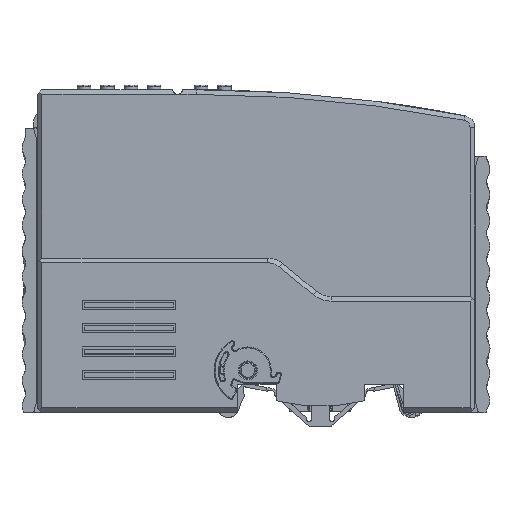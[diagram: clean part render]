
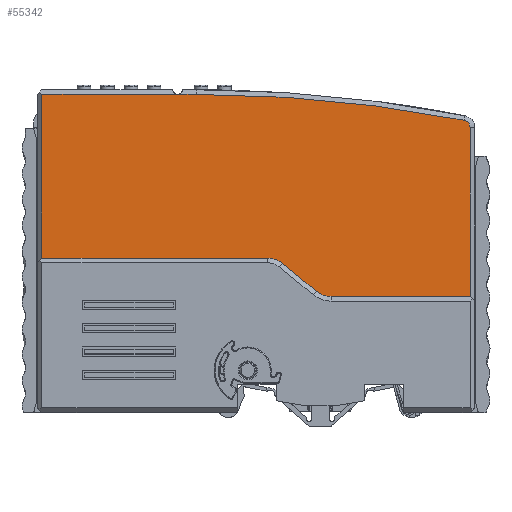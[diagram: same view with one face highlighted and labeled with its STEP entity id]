
A CAD part, top view. The second image highlights one B-rep face of the part: STEP entity #55342.
In plain terms, the highlighted planar face has unit normal (0, 0, 1).
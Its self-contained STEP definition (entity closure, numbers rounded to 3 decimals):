
#3159=DIRECTION('',(0.,-1.,0.));
#3160=VECTOR('',#3159,35.);
#3161=CARTESIAN_POINT('',(1.,68.,-20.));
#3162=LINE('',#3161,#3160);
#3163=CARTESIAN_POINT('',(34.,-231.,-20.));
#3164=DIRECTION('',(0.,0.,1.));
#3165=DIRECTION('',(0.191,0.982,0.));
#3166=AXIS2_PLACEMENT_3D('',#3163,#3164,#3165);
#3168=CARTESIAN_POINT('',(90.9,60.906,-20.));
#3169=DIRECTION('',(0.,0.,1.));
#3170=DIRECTION('',(1.,0.,0.));
#3171=AXIS2_PLACEMENT_3D('',#3168,#3169,#3170);
#3173=CARTESIAN_POINT('',(62.788,29.8,-20.));
#3174=DIRECTION('',(0.,0.,1.));
#3175=DIRECTION('',(-0.634,-0.773,0.));
#3176=AXIS2_PLACEMENT_3D('',#3173,#3174,#3175);
#3178=DIRECTION('',(0.773,-0.634,0.));
#3179=VECTOR('',#3178,9.356);
#3180=CARTESIAN_POINT('',(52.383,31.866,-20.));
#3181=LINE('',#3180,#3179);
#3182=CARTESIAN_POINT('',(49.212,28.,-20.));
#3183=DIRECTION('',(0.,0.,-1.));
#3184=DIRECTION('',(0.,1.,0.));
#3185=AXIS2_PLACEMENT_3D('',#3182,#3183,#3184);
#3187=DIRECTION('',(-1.,0.,0.));
#3188=VECTOR('',#3187,16.9);
#3189=CARTESIAN_POINT('',(48.5,31.4,-20.));
#3190=LINE('',#3189,#3188);
#3191=DIRECTION('',(0.,1.,0.));
#3192=VECTOR('',#3191,1.6);
#3193=CARTESIAN_POINT('',(48.5,31.4,-20.));
#3194=LINE('',#3193,#3192);
#3207=DIRECTION('',(-1.,0.,0.));
#3208=VECTOR('',#3207,11.3);
#3209=CARTESIAN_POINT('',(12.3,33.,-20.));
#3210=LINE('',#3209,#3208);
#3211=DIRECTION('',(-1.,0.,0.));
#3212=VECTOR('',#3211,2.4);
#3213=CARTESIAN_POINT('',(31.6,33.,-20.));
#3214=LINE('',#3213,#3212);
#3219=DIRECTION('',(-1.,0.,0.));
#3220=VECTOR('',#3219,0.712);
#3221=CARTESIAN_POINT('',(49.212,33.,-20.));
#3222=LINE('',#3221,#3220);
#3227=DIRECTION('',(0.,1.,0.));
#3228=VECTOR('',#3227,1.6);
#3229=CARTESIAN_POINT('',(12.3,31.4,-20.));
#3230=LINE('',#3229,#3228);
#3235=DIRECTION('',(-1.,0.,0.));
#3236=VECTOR('',#3235,16.9);
#3237=CARTESIAN_POINT('',(29.2,31.4,-20.));
#3238=LINE('',#3237,#3236);
#3243=DIRECTION('',(0.,1.,0.));
#3244=VECTOR('',#3243,1.6);
#3245=CARTESIAN_POINT('',(29.2,31.4,-20.));
#3246=LINE('',#3245,#3244);
#3271=DIRECTION('',(0.,1.,0.));
#3272=VECTOR('',#3271,1.6);
#3273=CARTESIAN_POINT('',(31.6,31.4,-20.));
#3274=LINE('',#3273,#3272);
#3347=DIRECTION('',(-1.,0.,0.));
#3348=VECTOR('',#3347,1.5);
#3349=CARTESIAN_POINT('',(40.8,32.4,-20.));
#3350=LINE('',#3349,#3348);
#3399=DIRECTION('',(0.,1.,0.));
#3400=VECTOR('',#3399,0.1);
#3401=CARTESIAN_POINT('',(40.8,32.3,-20.));
#3402=LINE('',#3401,#3400);
#3415=DIRECTION('',(-1.,0.,0.));
#3416=VECTOR('',#3415,1.5);
#3417=CARTESIAN_POINT('',(40.8,32.3,-20.));
#3418=LINE('',#3417,#3416);
#3431=DIRECTION('',(0.,1.,0.));
#3432=VECTOR('',#3431,0.1);
#3433=CARTESIAN_POINT('',(39.3,32.3,-20.));
#3434=LINE('',#3433,#3432);
#3870=DIRECTION('',(-1.,0.,0.));
#3871=VECTOR('',#3870,29.712);
#3872=CARTESIAN_POINT('',(92.5,24.8,-20.));
#3873=LINE('',#3872,#3871);
#3926=DIRECTION('',(0.,-1.,0.));
#3927=VECTOR('',#3926,36.106);
#3928=CARTESIAN_POINT('',(92.5,60.906,-20.));
#3929=LINE('',#3928,#3927);
#4344=DIRECTION('',(1.,0.,0.));
#4345=VECTOR('',#4344,4.);
#4346=CARTESIAN_POINT('',(30.,68.,-20.));
#4347=LINE('',#4346,#4345);
#5235=DIRECTION('',(1.,0.,0.));
#5236=VECTOR('',#5235,29.);
#5237=CARTESIAN_POINT('',(1.,68.,-20.));
#5238=LINE('',#5237,#5236);
#43397=CARTESIAN_POINT('',(1.,33.,-20.));
#43398=VERTEX_POINT('',#43397);
#43399=CARTESIAN_POINT('',(1.,68.,-20.));
#43400=VERTEX_POINT('',#43399);
#43403=CARTESIAN_POINT('',(48.5,31.4,-20.));
#43404=CARTESIAN_POINT('',(31.6,31.4,-20.));
#43405=VERTEX_POINT('',#43403);
#43406=VERTEX_POINT('',#43404);
#43407=CARTESIAN_POINT('',(31.6,33.,-20.));
#43408=VERTEX_POINT('',#43407);
#43409=CARTESIAN_POINT('',(29.2,33.,-20.));
#43410=VERTEX_POINT('',#43409);
#43411=CARTESIAN_POINT('',(29.2,31.4,-20.));
#43412=VERTEX_POINT('',#43411);
#43413=CARTESIAN_POINT('',(12.3,31.4,-20.));
#43414=VERTEX_POINT('',#43413);
#43415=CARTESIAN_POINT('',(12.3,33.,-20.));
#43416=VERTEX_POINT('',#43415);
#43417=CARTESIAN_POINT('',(30.,68.,-20.));
#43418=VERTEX_POINT('',#43417);
#43419=CARTESIAN_POINT('',(34.,68.,
-20.));
#43420=VERTEX_POINT('',#43419);
#43421=CARTESIAN_POINT('',(91.206,62.477,
-20.));
#43422=VERTEX_POINT('',#43421);
#43423=CARTESIAN_POINT('',(92.5,60.906,-20.));
#43424=VERTEX_POINT('',#43423);
#43425=CARTESIAN_POINT('',(92.5,24.8,
-20.));
#43426=VERTEX_POINT('',#43425);
#43427=CARTESIAN_POINT('',(62.788,24.8,
-20.));
#43428=VERTEX_POINT('',#43427);
#43429=CARTESIAN_POINT('',(59.617,25.934,-20.));
#43430=VERTEX_POINT('',#43429);
#43431=CARTESIAN_POINT('',(52.383,31.866,-20.));
#43432=VERTEX_POINT('',#43431);
#43433=CARTESIAN_POINT('',(49.212,33.,-20.));
#43434=VERTEX_POINT('',#43433);
#43435=CARTESIAN_POINT('',(48.5,33.,-20.));
#43436=VERTEX_POINT('',#43435);
#43437=CARTESIAN_POINT('',(40.8,32.3,-20.));
#43438=CARTESIAN_POINT('',(39.3,32.3,-20.));
#43439=VERTEX_POINT('',#43437);
#43440=VERTEX_POINT('',#43438);
#43441=CARTESIAN_POINT('',(40.8,32.4,-20.));
#43442=VERTEX_POINT('',#43441);
#43443=CARTESIAN_POINT('',(39.3,32.4,-20.));
#43444=VERTEX_POINT('',#43443);
#55288=CARTESIAN_POINT('',(46.75,46.4,-20.));
#55289=DIRECTION('',(0.,0.,1.));
#55290=DIRECTION('',(1.,0.,0.));
#55291=AXIS2_PLACEMENT_3D('',#55288,#55289,#55290);
#55292=PLANE('',#55291);
#55294=ORIENTED_EDGE('',*,*,#55293,.T.);
#55296=ORIENTED_EDGE('',*,*,#55295,.T.);
#55298=ORIENTED_EDGE('',*,*,#55297,.T.);
#55300=ORIENTED_EDGE('',*,*,#55299,.F.);
#55302=ORIENTED_EDGE('',*,*,#55301,.T.);
#55304=ORIENTED_EDGE('',*,*,#55303,.T.);
#55306=ORIENTED_EDGE('',*,*,#55305,.T.);
#55307=ORIENTED_EDGE('',*,*,#55277,.F.);
#55309=ORIENTED_EDGE('',*,*,#55308,.T.);
#55311=ORIENTED_EDGE('',*,*,#55310,.T.);
#55313=ORIENTED_EDGE('',*,*,#55312,.F.);
#55315=ORIENTED_EDGE('',*,*,#55314,.F.);
#55317=ORIENTED_EDGE('',*,*,#55316,.T.);
#55319=ORIENTED_EDGE('',*,*,#55318,.T.);
#55321=ORIENTED_EDGE('',*,*,#55320,.F.);
#55323=ORIENTED_EDGE('',*,*,#55322,.F.);
#55325=ORIENTED_EDGE('',*,*,#55324,.F.);
#55327=ORIENTED_EDGE('',*,*,#55326,.T.);
#55329=ORIENTED_EDGE('',*,*,#55328,.F.);
#55330=EDGE_LOOP('',(#55294,#55296,#55298,#55300,#55302,#55304,#55306,#55307,
#55309,#55311,#55313,#55315,#55317,#55319,#55321,#55323,#55325,#55327,#55329));
#55331=FACE_OUTER_BOUND('',#55330,.F.);
#55333=ORIENTED_EDGE('',*,*,#55332,.F.);
#55335=ORIENTED_EDGE('',*,*,#55334,.T.);
#55337=ORIENTED_EDGE('',*,*,#55336,.T.);
#55339=ORIENTED_EDGE('',*,*,#55338,.F.);
#55340=EDGE_LOOP('',(#55333,#55335,#55337,#55339));
#55341=FACE_BOUND('',#55340,.F.);
#55342=ADVANCED_FACE('',(#55331,#55341),#55292,.T.);
#3167=CIRCLE('',#3166,299.);
#3172=CIRCLE('',#3171,1.6);
#3177=CIRCLE('',#3176,5.);
#3186=CIRCLE('',#3185,5.);
#55277=EDGE_CURVE('',#43400,#43398,#3162,.T.);
#55293=EDGE_CURVE('',#43405,#43406,#3190,.T.);
#55295=EDGE_CURVE('',#43406,#43408,#3274,.T.);
#55297=EDGE_CURVE('',#43408,#43410,#3214,.T.);
#55299=EDGE_CURVE('',#43412,#43410,#3246,.T.);
#55301=EDGE_CURVE('',#43412,#43414,#3238,.T.);
#55303=EDGE_CURVE('',#43414,#43416,#3230,.T.);
#55305=EDGE_CURVE('',#43416,#43398,#3210,.T.);
#55308=EDGE_CURVE('',#43400,#43418,#5238,.T.);
#55310=EDGE_CURVE('',#43418,#43420,#4347,.T.);
#55312=EDGE_CURVE('',#43422,#43420,#3167,.T.);
#55314=EDGE_CURVE('',#43424,#43422,#3172,.T.);
#55316=EDGE_CURVE('',#43424,#43426,#3929,.T.);
#55318=EDGE_CURVE('',#43426,#43428,#3873,.T.);
#55320=EDGE_CURVE('',#43430,#43428,#3177,.T.);
#55322=EDGE_CURVE('',#43432,#43430,#3181,.T.);
#55324=EDGE_CURVE('',#43434,#43432,#3186,.T.);
#55326=EDGE_CURVE('',#43434,#43436,#3222,.T.);
#55328=EDGE_CURVE('',#43405,#43436,#3194,.T.);
#55332=EDGE_CURVE('',#43439,#43440,#3418,.T.);
#55334=EDGE_CURVE('',#43439,#43442,#3402,.T.);
#55336=EDGE_CURVE('',#43442,#43444,#3350,.T.);
#55338=EDGE_CURVE('',#43440,#43444,#3434,.T.);
